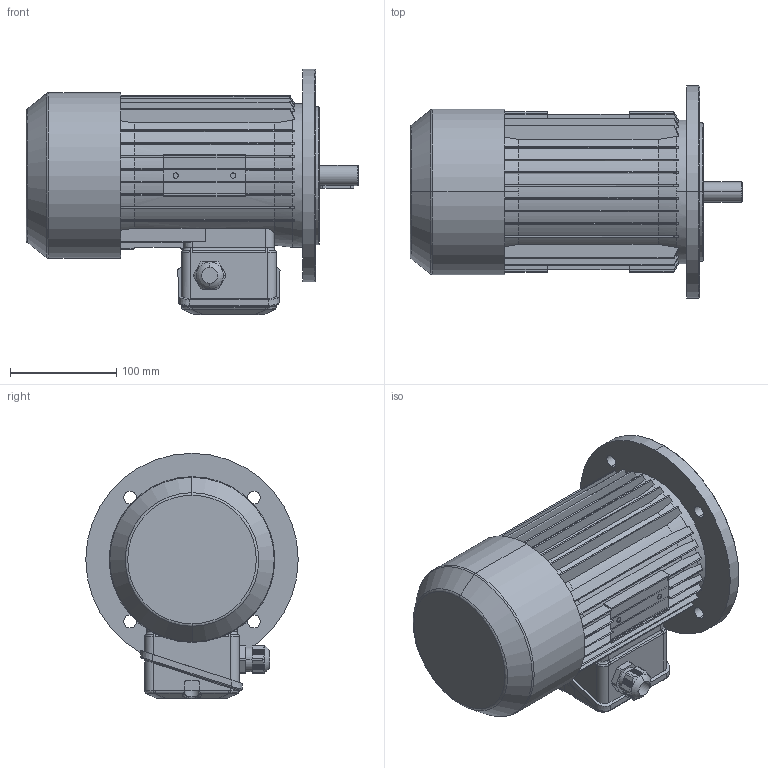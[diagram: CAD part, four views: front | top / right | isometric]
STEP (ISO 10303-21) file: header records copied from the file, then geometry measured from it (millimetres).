
FILE_DESCRIPTION (( 'STEP AP214' ), '1' );
FILE_NAME ('MAP80M4BU24B IM3041 A200 FF165.STEP', '2020-11-18T15:32:35', ( '' ), ( '' ), 'SwSTEP 2.0', 'SolidWorks 2018', '' );
FILE_SCHEMA (( 'AUTOMOTIVE_DESIGN' ));
Length unit declared in the file: millimetre
Products named in the file (1): MAP80M4BU24B IM3041 A200 FF165
Bounding box: 312.5 x 200 x 231 mm (x, y, z)
Volume: 4782213.4 mm3; surface area: 385546 mm2
Topology: 2 solids, 8 shells, 976 faces, 2550 edges, 1597 vertices
Faces by surface type: plane 415, cylinder 284, cone 128, bspline 124, torus 23, sphere 2
Entity records: 38281 total; most frequent: CARTESIAN_POINT 15854, ORIENTED_EDGE 5080, DIRECTION 4170, EDGE_CURVE 2540, VERTEX_POINT 1597, AXIS2_PLACEMENT_3D 1473, LINE 1224, VECTOR 1224
